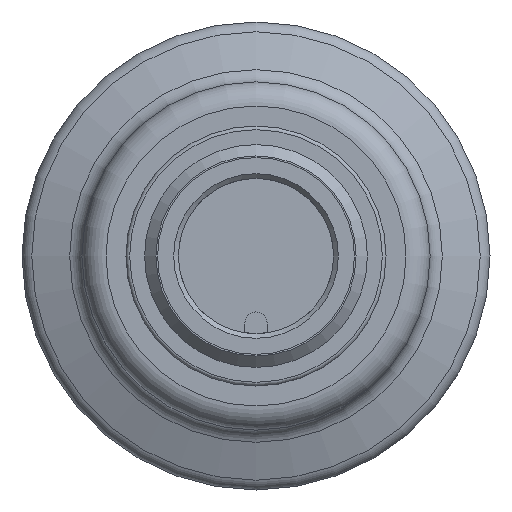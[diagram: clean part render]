
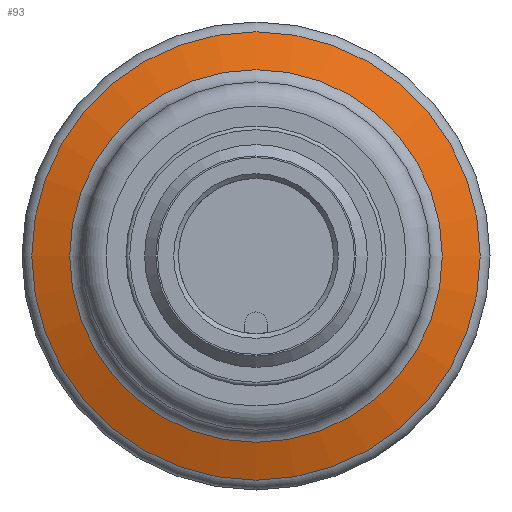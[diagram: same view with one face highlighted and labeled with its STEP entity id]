
A CAD part, left-side view. The second image highlights one B-rep face of the part: STEP entity #93.
In plain terms, the highlighted conical face has half-angle 70 degrees and reference radius 10.033 mm.
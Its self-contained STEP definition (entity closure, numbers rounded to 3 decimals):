
#93 = ADVANCED_FACE( '', ( #165, #166 ), #167, .T. );
#165 = FACE_OUTER_BOUND( '', #319, .T. );
#166 = FACE_BOUND( '', #320, .T. );
#167 = CONICAL_SURFACE( '', #321, 10.033, 1.222 );
#319 = EDGE_LOOP( '', ( #484 ) );
#320 = EDGE_LOOP( '', ( #485 ) );
#321 = AXIS2_PLACEMENT_3D( '', #486, #487, #488 );
#484 = ORIENTED_EDGE( '', *, *, #635, .F. );
#485 = ORIENTED_EDGE( '', *, *, #636, .T. );
#486 = CARTESIAN_POINT( '', ( -4.564, 0., 0. ) );
#487 = DIRECTION( '', ( 1., 0., 0. ) );
#488 = DIRECTION( '', ( 0., 0., -1. ) );
#635 = EDGE_CURVE( '', #704, #704, #705, .T. );
#636 = EDGE_CURVE( '', #706, #706, #707, .T. );
#704 = VERTEX_POINT( '', #919 );
#705 = CIRCLE( '', #920, 12.074 );
#706 = VERTEX_POINT( '', #921 );
#707 = CIRCLE( '', #922, 10.033 );
#919 = CARTESIAN_POINT( '', ( -3.822, 0., -12.074 ) );
#920 = AXIS2_PLACEMENT_3D( '', #1050, #1051, #1052 );
#921 = CARTESIAN_POINT( '', ( -4.564, 0., -10.033 ) );
#922 = AXIS2_PLACEMENT_3D( '', #1053, #1054, #1055 );
#1050 = CARTESIAN_POINT( '', ( -3.822, 0., 0. ) );
#1051 = DIRECTION( '', ( 1., 0., 0. ) );
#1052 = DIRECTION( '', ( 0., 0., -1. ) );
#1053 = CARTESIAN_POINT( '', ( -4.564, 0., 0. ) );
#1054 = DIRECTION( '', ( 1., 0., 0. ) );
#1055 = DIRECTION( '', ( 0., 0., -1. ) );
